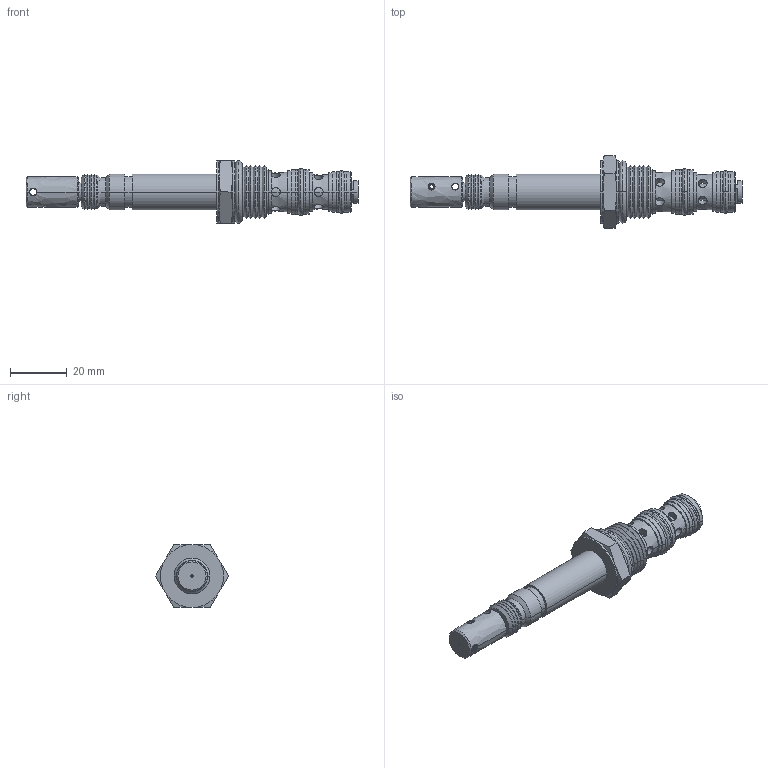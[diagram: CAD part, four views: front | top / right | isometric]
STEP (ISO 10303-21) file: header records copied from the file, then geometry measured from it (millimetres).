
FILE_DESCRIPTION((''),'2;1');
FILE_NAME('U:\Solid model CD\Solid model full\Solenoid\STEP\PPS3X0M-3D Full.stp','2008-06-23T11:38:17',('Dan'),(''),'Autodesk Inventor 9','Autodesk Inventor 9','');
FILE_SCHEMA(('AUTOMOTIVE_DESIGN { 1 0 10303 214 1 1 1 1 }'));
Length unit declared in the file: inch
Products named in the file (10): PPS3X0M-3D Full; PPS3X0M-3D Full1; PPS3X0M-3D Full2; PPS3X0M-3D Full3; PPS3X0M-3D Full4; PPS3X0M-3D Full5; PPS3X0M-3D Full6; PPS3X0M-3D Full7; PPS3X0M-3D Full8; PPS3X0M-3D Full9
Assembly tree (9 placements, depth 2):
  PPS3X0M-3D Full
    PPS3X0M-3D Full1
    PPS3X0M-3D Full2
    PPS3X0M-3D Full3
    PPS3X0M-3D Full4
    PPS3X0M-3D Full5
    PPS3X0M-3D Full6
    PPS3X0M-3D Full7
    PPS3X0M-3D Full8
    PPS3X0M-3D Full9
Bounding box: 117.19 x 25.66 x 22.23 mm (x, y, z)
Volume: 17324.2 mm3; surface area: 9737.1 mm2
Topology: 9 solids, 9 shells, 345 faces, 792 edges, 473 vertices
Faces by surface type: bspline 319, cylinder 14, plane 6, cone 6
Entity records: 14986 total; most frequent: CARTESIAN_POINT 8144, ORIENTED_EDGE 1584, DIRECTION 1093, EDGE_CURVE 792, VERTEX_POINT 473, AXIS2_PLACEMENT_3D 402, EDGE_LOOP 387, CIRCLE 357
